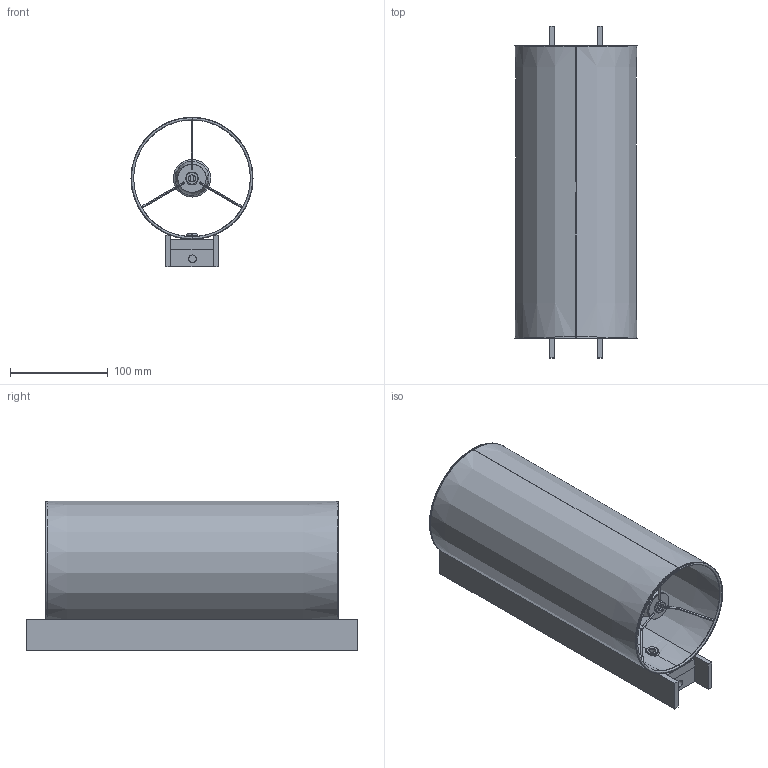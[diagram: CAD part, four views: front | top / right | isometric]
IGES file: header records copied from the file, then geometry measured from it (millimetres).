
Start section: SolidWorks IGES file using analytic representation for surfaces
Global section: file name: C:\SANTACOLE_PDM\Proyectos Catálogo\PROD-P10-005 -- TMM APLIQUES\6_Técnico comercial\3D\TMM Largo\TMM Largo.IGS; native system: SolidWorks 2019; preprocessor: SolidWorks 2019; author: ana.pascual; date: 200402.182241; units: millimetre
Bounding box: 125 x 340 x 153 mm (x, y, z)
Surface area: 369616.8 mm2 (no closed solid volume)
Topology: 0 solids, 0 shells, 712 faces, 7707 edges, 7706 vertices
Faces by surface type: bspline 396, revolution 316
